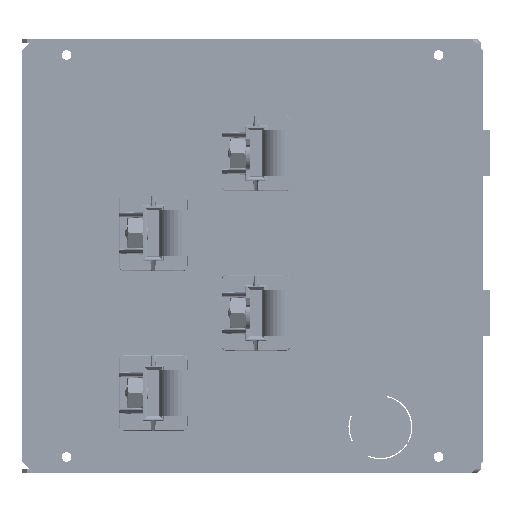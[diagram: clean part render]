
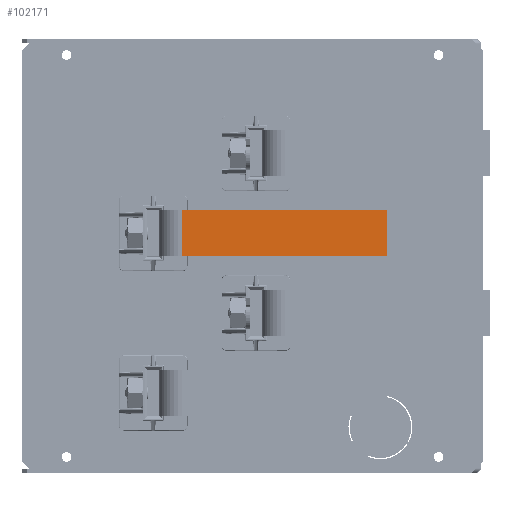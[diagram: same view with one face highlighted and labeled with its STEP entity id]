
A CAD part, front view. The second image highlights one B-rep face of the part: STEP entity #102171.
In plain terms, the highlighted planar face has unit normal (0, -1, 0) as drawn and (0, 0, 1) by its records, which use the part's own axes.
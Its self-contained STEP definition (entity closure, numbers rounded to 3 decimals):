
#101876=CARTESIAN_POINT(' ',(97.5,10.,70.));
#101881=DIRECTION(' ',(0.,-1.,0.));
#101886=VECTOR(' ',#101881,1.);
#101891=LINE('',#101876,#101886);
#101896=CARTESIAN_POINT(' ',(97.5,10.,70.));
#101897=VERTEX_POINT(' ',#101896);
#101901=CARTESIAN_POINT(' ',(97.5,-10.,70.));
#101902=VERTEX_POINT(' ',#101901);
#101906=EDGE_CURVE(' ',#101897,#101902,#101891,.T.);
#102031=DIRECTION(' ',(0.,0.,1.));
#102036=CARTESIAN_POINT(' ',(7.5,10.,70.));
#102041=DIRECTION(' ',(0.,-1.,0.));
#102046=AXIS2_PLACEMENT_3D(' ',#102036,#102031,#102041);
#102051=PLANE('NONE',#102046);
#102056=CARTESIAN_POINT(' ',(7.5,10.,70.));
#102061=DIRECTION(' ',(1.,0.,0.));
#102066=VECTOR(' ',#102061,1.);
#102071=LINE('',#102056,#102066);
#102076=CARTESIAN_POINT(' ',(7.5,10.,70.));
#102077=VERTEX_POINT(' ',#102076);
#102081=EDGE_CURVE(' ',#102077,#101897,#102071,.T.);
#102086=ORIENTED_EDGE(' ',*,*,#102081,.F.);
#102091=CARTESIAN_POINT(' ',(7.5,10.,70.));
#102096=DIRECTION(' ',(0.,-1.,0.));
#102101=VECTOR(' ',#102096,1.);
#102106=LINE('',#102091,#102101);
#102111=CARTESIAN_POINT(' ',(7.5,-10.,70.));
#102112=VERTEX_POINT(' ',#102111);
#102116=EDGE_CURVE(' ',#102077,#102112,#102106,.T.);
#102121=ORIENTED_EDGE(' ',*,*,#102116,.T.);
#102126=CARTESIAN_POINT(' ',(7.5,-10.,70.));
#102131=DIRECTION(' ',(1.,0.,0.));
#102136=VECTOR(' ',#102131,1.);
#102141=LINE('',#102126,#102136);
#102146=EDGE_CURVE(' ',#102112,#101902,#102141,.T.);
#102151=ORIENTED_EDGE(' ',*,*,#102146,.T.);
#102156=ORIENTED_EDGE(' ',*,*,#101906,.F.);
#102161=EDGE_LOOP(' ',(#102086,#102121,#102151,#102156));
#102166=FACE_OUTER_BOUND(' ',#102161,.T.);
#102171=ADVANCED_FACE('NONE',(#102166),#102051,.T.);
